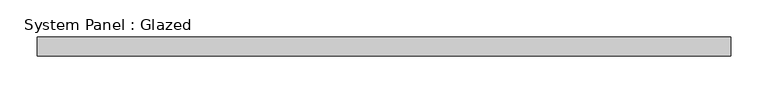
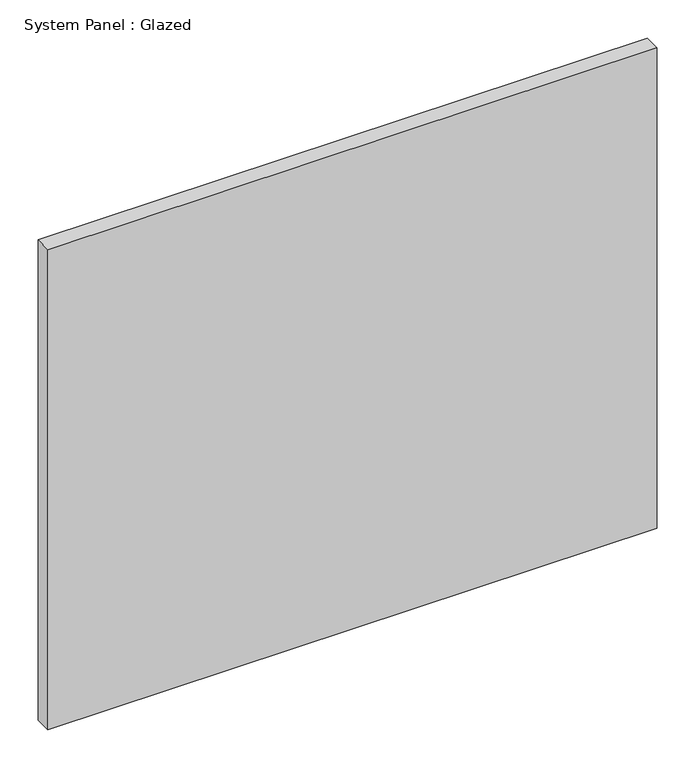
"""IFC4 building model written with IfcOpenShell, lengths in millimetres: plate geometry, System Panel : Glazed."""

from ifc_helpers import new_model, si_unit, origin, origin_with_axes, place, context, project, spatial, polyline, outline, extrude, source, transform, mapped, element, save


def system_panel_glazed_8d6ec7d4(model_context):
    return source(origin(), model_context, "Body", "SweptSolid", [
        extrude(outline(polyline([(462.5088063, 19.05), (-462.5088063, 19.05), (-462.5088063, 44.45), (462.5088063, 44.45), (462.5088063, 19.05)])), origin_with_axes(), (0.0, 0.0, 1.0), 770.6690025),
    ])


if __name__ == "__main__":
    model = new_model("IFC4")
    model_context = context("Model", 3, world=origin())
    ifc_project = project(units=[si_unit("LENGTHUNIT", "METRE", prefix="MILLI")], contexts=[model_context])
    site = spatial("IfcSite", under=ifc_project)
    building = spatial("IfcBuilding", under=site)
    placement = place(None, origin())
    system_panel_glazed_shape = system_panel_glazed_8d6ec7d4(model_context)
    element("IfcPlate", 1, ObjectType="System Panel : Glazed", at=placement, inside=building, context=model_context, shape_type="MappedRepresentation", body=[
        mapped(system_panel_glazed_shape, transform((0.0, 0.0, 0.0), x_axis=(1.0, 0.0, 0.0), y_axis=(0.0, 1.0, 0.0), z_axis=(0.0, 0.0, 1.0))),
    ])
    save(model, "model.ifc")
